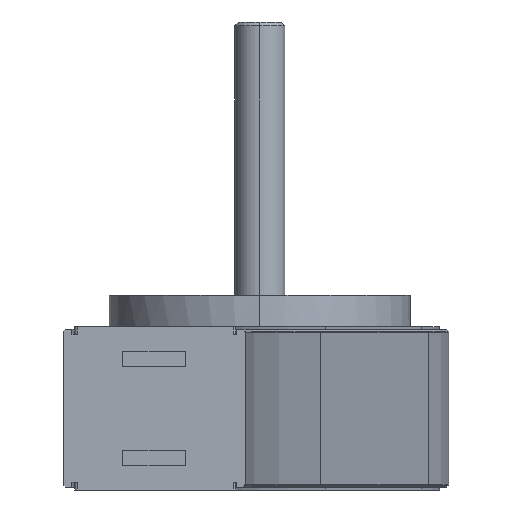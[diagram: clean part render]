
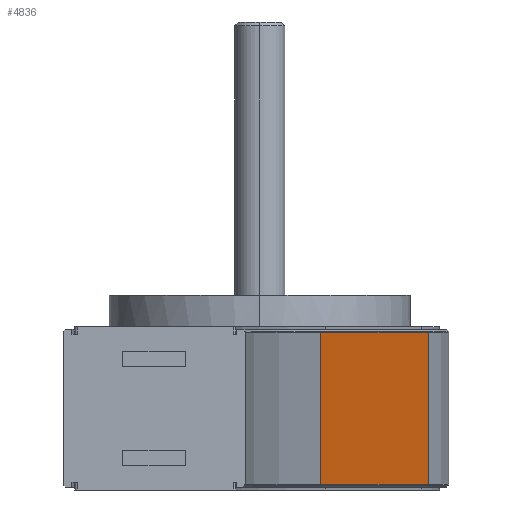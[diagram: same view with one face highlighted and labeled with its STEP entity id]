
A CAD part, left-side view. The second image highlights one B-rep face of the part: STEP entity #4836.
In plain terms, the highlighted planar face has unit normal (-0.457, -0.889, 0).
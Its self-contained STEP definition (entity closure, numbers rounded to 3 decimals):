
#23 = VECTOR ( 'NONE', #10820, 1000. ) ;
#51 = DIRECTION ( 'NONE',  ( 0., 0., 1. ) ) ;
#97 = CARTESIAN_POINT ( 'NONE',  ( -33.596, -67.021, 30.293 ) ) ;
#485 = VERTEX_POINT ( 'NONE', #9982 ) ;
#887 = ORIENTED_EDGE ( 'NONE', *, *, #7146, .F. ) ;
#1424 = EDGE_CURVE ( 'NONE', #9874, #485, #2408, .T. ) ;
#1506 = VERTEX_POINT ( 'NONE', #7163 ) ;
#2408 = LINE ( 'NONE', #7960, #3474 ) ;
#2748 = DIRECTION ( 'NONE',  ( -0.889, 0.457, 0. ) ) ;
#2836 = ORIENTED_EDGE ( 'NONE', *, *, #1424, .F. ) ;
#3282 = DIRECTION ( 'NONE',  ( 0.889, -0.457, 0. ) ) ;
#3364 = VECTOR ( 'NONE', #5930, 1000. ) ;
#3474 = VECTOR ( 'NONE', #2748, 1000. ) ;
#3763 = LINE ( 'NONE', #5849, #3364 ) ;
#3904 = VECTOR ( 'NONE', #51, 1000. ) ;
#3907 = CARTESIAN_POINT ( 'NONE',  ( -116.784, -24.281, 30.293 ) ) ;
#4574 = LINE ( 'NONE', #97, #3904 ) ;
#4836 = ADVANCED_FACE ( 'NONE', ( #8756 ), #8442, .T. ) ;
#5028 = CARTESIAN_POINT ( 'NONE',  ( -33.596, -67.021, 30.293 ) ) ;
#5125 = EDGE_CURVE ( 'NONE', #1506, #10705, #3763, .T. ) ;
#5278 = EDGE_CURVE ( 'NONE', #9874, #1506, #4574, .T. ) ;
#5849 = CARTESIAN_POINT ( 'NONE',  ( -33.596, -67.021, 30.293 ) ) ;
#5930 = DIRECTION ( 'NONE',  ( -0.889, 0.457, 0. ) ) ;
#6211 = LINE ( 'NONE', #7504, #23 ) ;
#6807 = CARTESIAN_POINT ( 'NONE',  ( -33.596, -67.021, -30.293 ) ) ;
#7146 = EDGE_CURVE ( 'NONE', #485, #10705, #6211, .T. ) ;
#7163 = CARTESIAN_POINT ( 'NONE',  ( -33.596, -67.021, 30.293 ) ) ;
#7504 = CARTESIAN_POINT ( 'NONE',  ( -116.784, -24.281, 30.293 ) ) ;
#7505 = DIRECTION ( 'NONE',  ( -0.457, -0.889, 0. ) ) ;
#7960 = CARTESIAN_POINT ( 'NONE',  ( -33.596, -67.021, -30.293 ) ) ;
#8128 = EDGE_LOOP ( 'NONE', ( #10065, #8745, #887, #2836 ) ) ;
#8442 = PLANE ( 'NONE',  #11110 ) ;
#8745 = ORIENTED_EDGE ( 'NONE', *, *, #5125, .T. ) ;
#8756 = FACE_OUTER_BOUND ( 'NONE', #8128, .T. ) ;
#9874 = VERTEX_POINT ( 'NONE', #6807 ) ;
#9982 = CARTESIAN_POINT ( 'NONE',  ( -116.784, -24.281, -30.293 ) ) ;
#10065 = ORIENTED_EDGE ( 'NONE', *, *, #5278, .T. ) ;
#10705 = VERTEX_POINT ( 'NONE', #3907 ) ;
#10820 = DIRECTION ( 'NONE',  ( 0., 0., 1. ) ) ;
#11110 = AXIS2_PLACEMENT_3D ( 'NONE', #5028, #7505, #3282 ) ;
